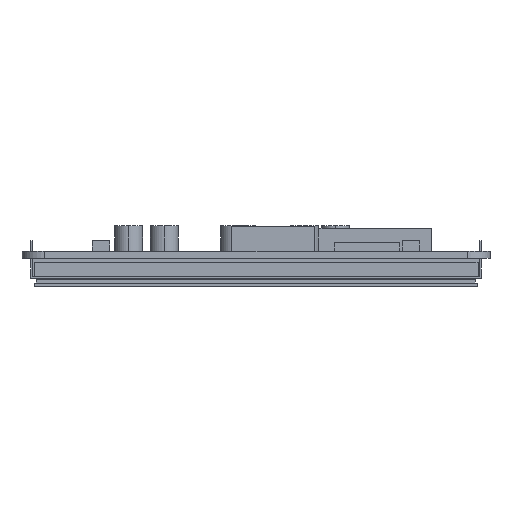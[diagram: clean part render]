
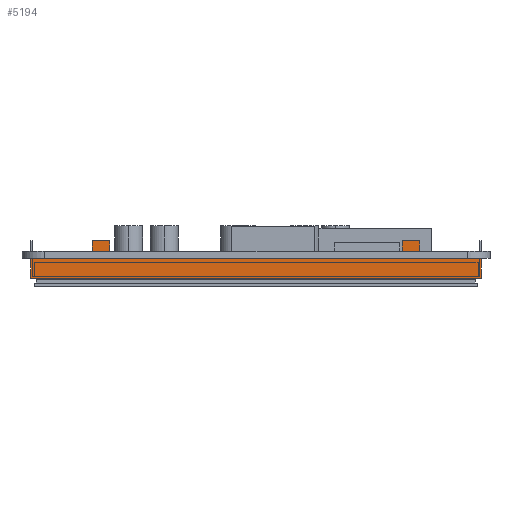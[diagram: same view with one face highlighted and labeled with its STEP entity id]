
A CAD part, front view. The second image highlights one B-rep face of the part: STEP entity #5194.
In plain terms, the highlighted planar face has unit normal (0, -1, 0).
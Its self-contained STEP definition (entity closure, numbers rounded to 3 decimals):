
#865=DIRECTION('',(0.,0.,-1.));
#866=VECTOR('',#865,4.);
#867=CARTESIAN_POINT('',(32.931,-83.102,2.4));
#868=LINE('',#867,#866);
#877=DIRECTION('',(-1.,0.,0.));
#878=VECTOR('',#877,4.);
#879=CARTESIAN_POINT('',(36.931,-83.102,2.4));
#880=LINE('',#879,#878);
#893=DIRECTION('',(1.,0.,0.));
#894=VECTOR('',#893,2.);
#895=CARTESIAN_POINT('',(34.931,-83.102,0.));
#896=LINE('',#895,#894);
#897=DIRECTION('',(0.,0.,-1.));
#898=VECTOR('',#897,2.4);
#899=CARTESIAN_POINT('',(-32.925,-83.102,2.4));
#900=LINE('',#899,#898);
#901=DIRECTION('',(1.,0.,0.));
#902=VECTOR('',#901,2.54);
#903=CARTESIAN_POINT('',(-34.925,-83.102,-1.6));
#904=LINE('',#903,#902);
#905=DIRECTION('',(1.,0.,0.));
#906=VECTOR('',#905,0.546);
#907=CARTESIAN_POINT('',(32.385,-83.102,-1.6));
#908=LINE('',#907,#906);
#909=DIRECTION('',(0.,0.,-1.));
#910=VECTOR('',#909,2.4);
#911=CARTESIAN_POINT('',(36.931,-83.102,2.4));
#912=LINE('',#911,#910);
#913=DIRECTION('',(1.,0.,0.));
#914=VECTOR('',#913,2.534);
#915=CARTESIAN_POINT('',(34.931,-83.102,-1.6));
#916=LINE('',#915,#914);
#917=DIRECTION('',(0.,0.,-1.));
#918=VECTOR('',#917,4.5);
#919=CARTESIAN_POINT('',(50.753,-83.102,-1.6));
#920=LINE('',#919,#918);
#921=DIRECTION('',(-1.,0.,0.));
#922=VECTOR('',#921,101.5);
#923=CARTESIAN_POINT('',(50.753,-83.102,-6.1));
#924=LINE('',#923,#922);
#945=DIRECTION('',(-1.,0.,0.));
#946=VECTOR('',#945,13.288);
#947=CARTESIAN_POINT('',(50.753,-83.102,-1.6));
#948=LINE('',#947,#946);
#949=DIRECTION('',(-1.,0.,0.));
#950=VECTOR('',#949,64.77);
#951=CARTESIAN_POINT('',(32.385,-83.102,-1.6));
#952=LINE('',#951,#950);
#953=DIRECTION('',(-1.,0.,0.));
#954=VECTOR('',#953,13.282);
#955=CARTESIAN_POINT('',(-37.465,-83.102,-1.6));
#956=LINE('',#955,#954);
#1323=DIRECTION('',(0.,0.,-1.));
#1324=VECTOR('',#1323,4.5);
#1325=CARTESIAN_POINT('',(-50.747,-83.102,-1.6));
#1326=LINE('',#1325,#1324);
#2647=DIRECTION('',(0.,0.,1.));
#2648=VECTOR('',#2647,1.6);
#2649=CARTESIAN_POINT('',(-34.925,-83.102,-1.6));
#2650=LINE('',#2649,#2648);
#2655=DIRECTION('',(1.,0.,0.));
#2656=VECTOR('',#2655,2.);
#2657=CARTESIAN_POINT('',(-34.925,-83.102,0.));
#2658=LINE('',#2657,#2656);
#2675=DIRECTION('',(-1.,0.,0.));
#2676=VECTOR('',#2675,4.);
#2677=CARTESIAN_POINT('',(-32.925,-83.102,2.4));
#2678=LINE('',#2677,#2676);
#2683=DIRECTION('',(0.,0.,-1.));
#2684=VECTOR('',#2683,4.);
#2685=CARTESIAN_POINT('',(-36.925,-83.102,2.4));
#2686=LINE('',#2685,#2684);
#2695=DIRECTION('',(-1.,0.,0.));
#2696=VECTOR('',#2695,0.54);
#2697=CARTESIAN_POINT('',(-36.925,-83.102,-1.6));
#2698=LINE('',#2697,#2696);
#2815=DIRECTION('',(0.,0.,1.));
#2816=VECTOR('',#2815,1.6);
#2817=CARTESIAN_POINT('',(34.931,-83.102,-1.6));
#2818=LINE('',#2817,#2816);
#3345=CARTESIAN_POINT('',(50.753,-83.102,-1.6));
#3346=VERTEX_POINT('',#3345);
#3347=CARTESIAN_POINT('',(37.465,-83.102,-1.6));
#3348=VERTEX_POINT('',#3347);
#3353=CARTESIAN_POINT('',(32.385,-83.102,-1.6));
#3354=VERTEX_POINT('',#3353);
#3355=CARTESIAN_POINT('',(-32.385,-83.102,-1.6));
#3356=VERTEX_POINT('',#3355);
#3361=CARTESIAN_POINT('',(-37.465,-83.102,-1.6));
#3362=VERTEX_POINT('',#3361);
#3363=CARTESIAN_POINT('',(-50.747,-83.102,-1.6));
#3364=VERTEX_POINT('',#3363);
#3593=CARTESIAN_POINT('',(34.931,-83.102,-1.6));
#3594=VERTEX_POINT('',#3593);
#3599=CARTESIAN_POINT('',(32.931,-83.102,-1.6));
#3600=VERTEX_POINT('',#3599);
#3661=CARTESIAN_POINT('',(-34.925,-83.102,-1.6));
#3662=VERTEX_POINT('',#3661);
#3667=CARTESIAN_POINT('',(-36.925,-83.102,-1.6));
#3668=VERTEX_POINT('',#3667);
#3773=CARTESIAN_POINT('',(34.931,-83.102,0.));
#3774=VERTEX_POINT('',#3773);
#3775=CARTESIAN_POINT('',(-36.925,-83.102,2.4));
#3776=VERTEX_POINT('',#3775);
#3777=CARTESIAN_POINT('',(-32.925,-83.102,2.4));
#3778=VERTEX_POINT('',#3777);
#3779=CARTESIAN_POINT('',(-32.925,-83.102,0.));
#3780=VERTEX_POINT('',#3779);
#3781=CARTESIAN_POINT('',(-34.925,-83.102,0.));
#3782=VERTEX_POINT('',#3781);
#3783=CARTESIAN_POINT('',(32.931,-83.102,2.4));
#3784=VERTEX_POINT('',#3783);
#3785=CARTESIAN_POINT('',(36.931,-83.102,2.4));
#3786=VERTEX_POINT('',#3785);
#3787=CARTESIAN_POINT('',(36.931,-83.102,0.));
#3788=VERTEX_POINT('',#3787);
#3789=CARTESIAN_POINT('',(50.753,-83.102,-6.1));
#3790=VERTEX_POINT('',#3789);
#3791=CARTESIAN_POINT('',(-50.747,-83.102,-6.1));
#3792=VERTEX_POINT('',#3791);
#5153=CARTESIAN_POINT('',(-50.747,-83.102,-6.1));
#5154=DIRECTION('',(0.,-1.,0.));
#5155=DIRECTION('',(1.,0.,0.));
#5156=AXIS2_PLACEMENT_3D('',#5153,#5154,#5155);
#5157=PLANE('',#5156);
#5159=ORIENTED_EDGE('',*,*,#5158,.F.);
#5161=ORIENTED_EDGE('',*,*,#5160,.F.);
#5163=ORIENTED_EDGE('',*,*,#5162,.F.);
#5165=ORIENTED_EDGE('',*,*,#5164,.F.);
#5167=ORIENTED_EDGE('',*,*,#5166,.T.);
#5169=ORIENTED_EDGE('',*,*,#5168,.F.);
#5171=ORIENTED_EDGE('',*,*,#5170,.F.);
#5173=ORIENTED_EDGE('',*,*,#5172,.T.);
#5175=ORIENTED_EDGE('',*,*,#5174,.F.);
#5176=ORIENTED_EDGE('',*,*,#5057,.T.);
#5177=ORIENTED_EDGE('',*,*,#5078,.F.);
#5178=ORIENTED_EDGE('',*,*,#5098,.F.);
#5179=ORIENTED_EDGE('',*,*,#5118,.T.);
#5180=ORIENTED_EDGE('',*,*,#5137,.F.);
#5182=ORIENTED_EDGE('',*,*,#5181,.F.);
#5183=ORIENTED_EDGE('',*,*,#4965,.T.);
#5185=ORIENTED_EDGE('',*,*,#5184,.F.);
#5187=ORIENTED_EDGE('',*,*,#5186,.T.);
#5189=ORIENTED_EDGE('',*,*,#5188,.T.);
#5191=ORIENTED_EDGE('',*,*,#5190,.F.);
#5192=EDGE_LOOP('',(#5159,#5161,#5163,#5165,#5167,#5169,#5171,#5173,#5175,#5176,
#5177,#5178,#5179,#5180,#5182,#5183,#5185,#5187,#5189,#5191));
#5193=FACE_OUTER_BOUND('',#5192,.F.);
#4965=EDGE_CURVE('',#3594,#3348,#916,.T.);
#5057=EDGE_CURVE('',#3354,#3600,#908,.T.);
#5078=EDGE_CURVE('',#3784,#3600,#868,.T.);
#5098=EDGE_CURVE('',#3786,#3784,#880,.T.);
#5118=EDGE_CURVE('',#3786,#3788,#912,.T.);
#5137=EDGE_CURVE('',#3774,#3788,#896,.T.);
#5158=EDGE_CURVE('',#3362,#3364,#956,.T.);
#5160=EDGE_CURVE('',#3668,#3362,#2698,.T.);
#5162=EDGE_CURVE('',#3776,#3668,#2686,.T.);
#5164=EDGE_CURVE('',#3778,#3776,#2678,.T.);
#5166=EDGE_CURVE('',#3778,#3780,#900,.T.);
#5168=EDGE_CURVE('',#3782,#3780,#2658,.T.);
#5170=EDGE_CURVE('',#3662,#3782,#2650,.T.);
#5172=EDGE_CURVE('',#3662,#3356,#904,.T.);
#5174=EDGE_CURVE('',#3354,#3356,#952,.T.);
#5181=EDGE_CURVE('',#3594,#3774,#2818,.T.);
#5184=EDGE_CURVE('',#3346,#3348,#948,.T.);
#5186=EDGE_CURVE('',#3346,#3790,#920,.T.);
#5188=EDGE_CURVE('',#3790,#3792,#924,.T.);
#5190=EDGE_CURVE('',#3364,#3792,#1326,.T.);
#5194=ADVANCED_FACE('',(#5193),#5157,.T.);
